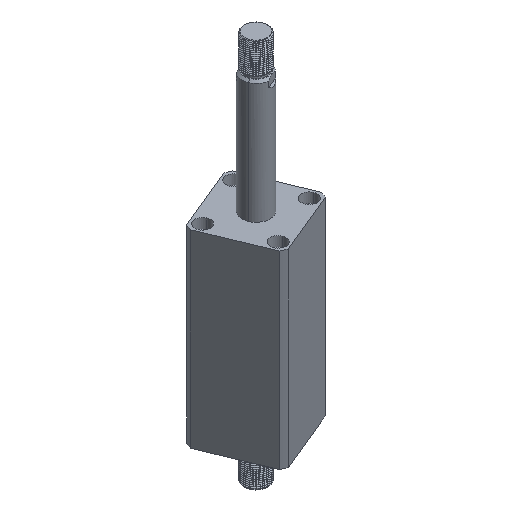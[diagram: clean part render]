
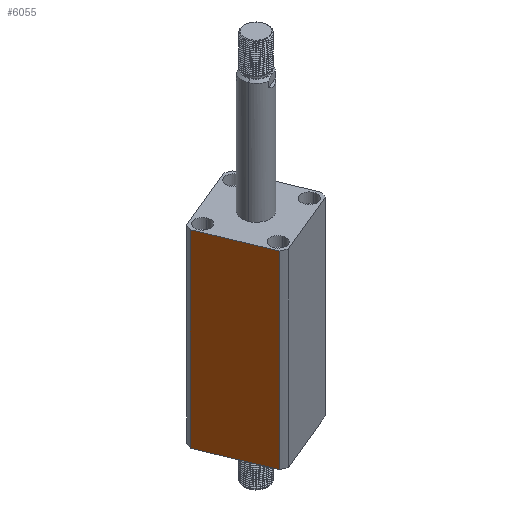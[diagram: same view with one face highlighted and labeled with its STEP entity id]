
A CAD part, isometric view. The second image highlights one B-rep face of the part: STEP entity #6055.
In plain terms, the highlighted planar face has unit normal (-0.924, -0.383, 0) as drawn and (1, 0, 0) by its records, which use the part's own axes.
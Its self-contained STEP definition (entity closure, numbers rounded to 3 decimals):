
#350 = LINE ( 'NONE', #16292, #7551 ) ;
#386 = LINE ( 'NONE', #17431, #14394 ) ;
#736 = ORIENTED_EDGE ( 'NONE', *, *, #16148, .F. ) ;
#970 = CARTESIAN_POINT ( 'NONE',  ( 35., -30.615, -130. ) ) ;
#1147 = ORIENTED_EDGE ( 'NONE', *, *, #8972, .T. ) ;
#1154 = PLANE ( 'NONE',  #7231 ) ;
#1445 = DIRECTION ( 'NONE',  ( 0., 0., -1. ) ) ;
#1788 = CARTESIAN_POINT ( 'NONE',  ( 35., -30.615, 170. ) ) ;
#2150 = LINE ( 'NONE', #970, #8928 ) ;
#2256 = LINE ( 'NONE', #12352, #16270 ) ;
#3103 = EDGE_CURVE ( 'NONE', #9259, #7546, #2256, .T. ) ;
#3761 = EDGE_CURVE ( 'NONE', #7546, #8787, #350, .T. ) ;
#4143 = EDGE_LOOP ( 'NONE', ( #736, #1147, #11988, #5628 ) ) ;
#4693 = CARTESIAN_POINT ( 'NONE',  ( 35., 30.615, 0. ) ) ;
#5278 = DIRECTION ( 'NONE',  ( 0., 1., 0. ) ) ;
#5628 = ORIENTED_EDGE ( 'NONE', *, *, #3103, .F. ) ;
#6055 = ADVANCED_FACE ( 'NONE', ( #11448 ), #1154, .F. ) ;
#6562 = DIRECTION ( 'NONE',  ( 0., 0., 1. ) ) ;
#6681 = DIRECTION ( 'NONE',  ( 0., -1., 0. ) ) ;
#7231 = AXIS2_PLACEMENT_3D ( 'NONE', #13451, #14813, #6681 ) ;
#7385 = VERTEX_POINT ( 'NONE', #9196 ) ;
#7546 = VERTEX_POINT ( 'NONE', #13539 ) ;
#7551 = VECTOR ( 'NONE', #1445, 1000. ) ;
#8787 = VERTEX_POINT ( 'NONE', #4693 ) ;
#8928 = VECTOR ( 'NONE', #6562, 1000. ) ;
#8972 = EDGE_CURVE ( 'NONE', #7385, #8787, #386, .T. ) ;
#9196 = CARTESIAN_POINT ( 'NONE',  ( 35., -30.615, 0. ) ) ;
#9259 = VERTEX_POINT ( 'NONE', #1788 ) ;
#11448 = FACE_OUTER_BOUND ( 'NONE', #4143, .T. ) ;
#11988 = ORIENTED_EDGE ( 'NONE', *, *, #3761, .F. ) ;
#12352 = CARTESIAN_POINT ( 'NONE',  ( 35., 35., 170. ) ) ;
#13451 = CARTESIAN_POINT ( 'NONE',  ( 35., 35., 170. ) ) ;
#13539 = CARTESIAN_POINT ( 'NONE',  ( 35., 30.615, 170. ) ) ;
#14394 = VECTOR ( 'NONE', #5278, 1000. ) ;
#14813 = DIRECTION ( 'NONE',  ( -1., 0., 0. ) ) ;
#16148 = EDGE_CURVE ( 'NONE', #7385, #9259, #2150, .T. ) ;
#16270 = VECTOR ( 'NONE', #16463, 1000. ) ;
#16292 = CARTESIAN_POINT ( 'NONE',  ( 35., 30.615, -130. ) ) ;
#16463 = DIRECTION ( 'NONE',  ( 0., 1., 0. ) ) ;
#17431 = CARTESIAN_POINT ( 'NONE',  ( 35., 35., 0. ) ) ;
